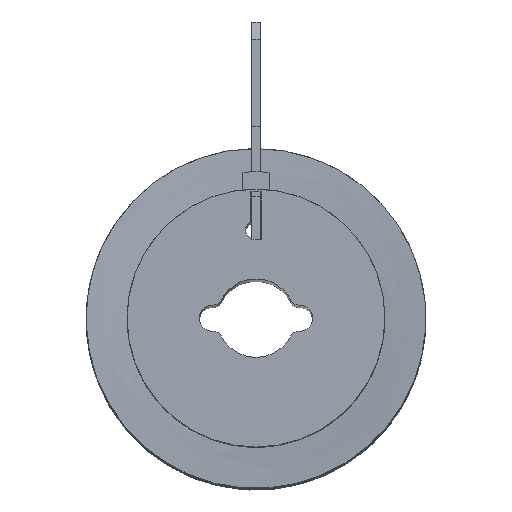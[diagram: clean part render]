
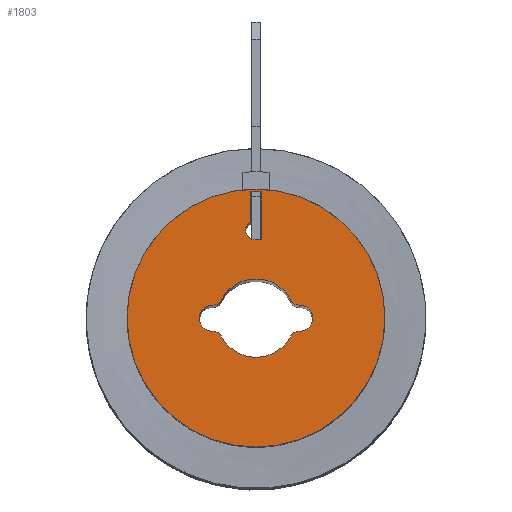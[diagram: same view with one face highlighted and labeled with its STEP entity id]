
A CAD part, top view. The second image highlights one B-rep face of the part: STEP entity #1803.
In plain terms, the highlighted planar face has unit normal (0, 0, 1).
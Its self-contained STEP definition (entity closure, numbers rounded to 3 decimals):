
#25=FACE_BOUND($,#337,.T.);
#26=FACE_BOUND($,#338,.T.);
#39=CIRCLE($,#1832,14.5);
#58=CIRCLE($,#1861,14.8);
#72=CIRCLE($,#1930,1.1);
#73=CIRCLE($,#1933,4.5);
#74=CIRCLE($,#1934,1.);
#75=CIRCLE($,#1935,1.5);
#76=CIRCLE($,#1936,1.);
#77=CIRCLE($,#1937,4.5);
#78=CIRCLE($,#1938,1.);
#79=CIRCLE($,#1939,1.5);
#80=CIRCLE($,#1940,1.);
#169=PLANE($,#1932);
#242=FACE_OUTER_BOUND($,#336,.T.);
#336=EDGE_LOOP($,(#1582));
#337=EDGE_LOOP($,(#1583,#1584,#1585,#1586,#1587));
#338=EDGE_LOOP($,(#1588,#1589,#1590,#1591,#1592,#1593,#1594,#1595));
#497=LINE($,#6041,#681);
#522=LINE($,#6095,#706);
#525=LINE($,#6104,#709);
#681=VECTOR($,#2293,0.7);
#706=VECTOR($,#2356,5.488);
#709=VECTOR($,#2367,3.408);
#757=VERTEX_POINT($,#5734);
#758=VERTEX_POINT($,#5736);
#787=VERTEX_POINT($,#5814);
#860=VERTEX_POINT($,#6038);
#861=VERTEX_POINT($,#6040);
#873=VERTEX_POINT($,#6099);
#874=VERTEX_POINT($,#6106);
#875=VERTEX_POINT($,#6107);
#876=VERTEX_POINT($,#6109);
#877=VERTEX_POINT($,#6111);
#878=VERTEX_POINT($,#6113);
#879=VERTEX_POINT($,#6115);
#880=VERTEX_POINT($,#6117);
#881=VERTEX_POINT($,#6119);
#929=EDGE_CURVE($,#758,#757,#39,.T.);
#968=EDGE_CURVE($,#787,#787,#58,.T.);
#1082=EDGE_CURVE($,#861,#860,#497,.T.);
#1110=EDGE_CURVE($,#757,#861,#522,.T.);
#1113=EDGE_CURVE($,#860,#873,#72,.T.);
#1115=EDGE_CURVE($,#873,#758,#525,.T.);
#1116=EDGE_CURVE($,#874,#875,#73,.T.);
#1117=EDGE_CURVE($,#875,#876,#74,.T.);
#1118=EDGE_CURVE($,#876,#877,#75,.T.);
#1119=EDGE_CURVE($,#877,#878,#76,.T.);
#1120=EDGE_CURVE($,#878,#879,#77,.T.);
#1121=EDGE_CURVE($,#879,#880,#78,.T.);
#1122=EDGE_CURVE($,#880,#881,#79,.T.);
#1123=EDGE_CURVE($,#881,#874,#80,.T.);
#1582=ORIENTED_EDGE($,*,*,#968,.T.);
#1583=ORIENTED_EDGE($,*,*,#1115,.T.);
#1584=ORIENTED_EDGE($,*,*,#929,.T.);
#1585=ORIENTED_EDGE($,*,*,#1110,.T.);
#1586=ORIENTED_EDGE($,*,*,#1082,.T.);
#1587=ORIENTED_EDGE($,*,*,#1113,.T.);
#1588=ORIENTED_EDGE($,*,*,#1116,.T.);
#1589=ORIENTED_EDGE($,*,*,#1117,.T.);
#1590=ORIENTED_EDGE($,*,*,#1118,.T.);
#1591=ORIENTED_EDGE($,*,*,#1119,.T.);
#1592=ORIENTED_EDGE($,*,*,#1120,.T.);
#1593=ORIENTED_EDGE($,*,*,#1121,.T.);
#1594=ORIENTED_EDGE($,*,*,#1122,.T.);
#1595=ORIENTED_EDGE($,*,*,#1123,.T.);
#1803=ADVANCED_FACE($,(#242,#25,#26),#169,.T.);
#1832=AXIS2_PLACEMENT_3D($,#5737,#2015,#2016);
#1861=AXIS2_PLACEMENT_3D($,#5815,#2093,#2094);
#1930=AXIS2_PLACEMENT_3D($,#6101,#2362,#2363);
#1932=AXIS2_PLACEMENT_3D($,#6105,#2368,#2369);
#1933=AXIS2_PLACEMENT_3D($,#6108,#2370,#2371);
#1934=AXIS2_PLACEMENT_3D($,#6110,#2372,#2373);
#1935=AXIS2_PLACEMENT_3D($,#6112,#2374,#2375);
#1936=AXIS2_PLACEMENT_3D($,#6114,#2376,#2377);
#1937=AXIS2_PLACEMENT_3D($,#6116,#2378,#2379);
#1938=AXIS2_PLACEMENT_3D($,#6118,#2380,#2381);
#1939=AXIS2_PLACEMENT_3D($,#6120,#2382,#2383);
#1940=AXIS2_PLACEMENT_3D($,#6121,#2384,#2385);
#2015=DIRECTION('center_axis',(0.,0.,
-1.));
#2016=DIRECTION('ref_axis',(-1.,0.,0.));
#2093=DIRECTION('center_axis',(0.,0.,
1.));
#2094=DIRECTION('ref_axis',(-1.,0.,0.));
#2293=DIRECTION($,(-1.,0.,0.));
#2356=DIRECTION($,(0.,-1.,0.));
#2362=DIRECTION('center_axis',(0.,0.,-1.));
#2363=DIRECTION('ref_axis',(0.455,-0.891,0.));
#2367=DIRECTION($,(0.,1.,0.));
#2368=DIRECTION('center_axis',(0.,0.,1.));
#2369=DIRECTION('ref_axis',(1.,0.,0.));
#2370=DIRECTION('center_axis',(0.,0.,-1.));
#2371=DIRECTION('ref_axis',(0.891,0.454,0.));
#2372=DIRECTION('center_axis',(0.,0.,1.));
#2373=DIRECTION('ref_axis',(0.891,0.454,0.));
#2374=DIRECTION('center_axis',(0.,0.,-1.));
#2375=DIRECTION('ref_axis',(-0.04,-0.999,0.));
#2376=DIRECTION('center_axis',(0.,0.,1.));
#2377=DIRECTION('ref_axis',(-0.04,-0.999,0.));
#2378=DIRECTION('center_axis',(0.,0.,-1.));
#2379=DIRECTION('ref_axis',(-0.891,-0.454,0.));
#2380=DIRECTION('center_axis',(0.,0.,1.));
#2381=DIRECTION('ref_axis',(-0.891,-0.454,0.));
#2382=DIRECTION('center_axis',(0.,0.,-1.));
#2383=DIRECTION('ref_axis',(0.04,0.999,0.));
#2384=DIRECTION('center_axis',(0.,0.,1.));
#2385=DIRECTION('ref_axis',(0.04,0.999,0.));
#5734=CARTESIAN_POINT('',(0.6,14.488,82.5));
#5736=CARTESIAN_POINT('',(-0.6,14.488,82.5));
#5737=CARTESIAN_POINT('Origin',(0.,0.,
82.5));
#5814=CARTESIAN_POINT('',(14.8,0.,82.5));
#5815=CARTESIAN_POINT('Origin',(0.,0.,
82.5));
#6038=CARTESIAN_POINT('',(-0.1,9.,82.5));
#6040=CARTESIAN_POINT('',(0.6,9.,82.5));
#6041=CARTESIAN_POINT($,(-0.05,9.,82.5));
#6095=CARTESIAN_POINT($,(0.6,4.5,82.5));
#6099=CARTESIAN_POINT('',(-0.6,11.08,82.5));
#6101=CARTESIAN_POINT('Origin',(-0.1,10.1,82.5));
#6104=CARTESIAN_POINT($,(-0.6,7.244,82.5));
#6105=CARTESIAN_POINT('Origin',(0.,0.,82.5));
#6106=CARTESIAN_POINT('',(-4.009,2.044,82.5));
#6107=CARTESIAN_POINT('',(4.009,2.044,82.5));
#6108=CARTESIAN_POINT('Origin',(0.,0.,82.5));
#6109=CARTESIAN_POINT('',(4.94,1.499,82.5));
#6110=CARTESIAN_POINT('Origin',(4.9,2.498,82.5));
#6111=CARTESIAN_POINT('',(4.94,-1.499,82.5));
#6112=CARTESIAN_POINT('Origin',(5.,0.,82.5));
#6113=CARTESIAN_POINT('',(4.009,-2.044,82.5));
#6114=CARTESIAN_POINT('Origin',(4.9,-2.498,82.5));
#6115=CARTESIAN_POINT('',(-4.009,-2.044,82.5));
#6116=CARTESIAN_POINT('Origin',(0.,0.,82.5));
#6117=CARTESIAN_POINT('',(-4.94,-1.499,82.5));
#6118=CARTESIAN_POINT('Origin',(-4.9,-2.498,82.5));
#6119=CARTESIAN_POINT('',(-4.94,1.499,82.5));
#6120=CARTESIAN_POINT('Origin',(-5.,0.,82.5));
#6121=CARTESIAN_POINT('Origin',(-4.9,2.498,82.5));
